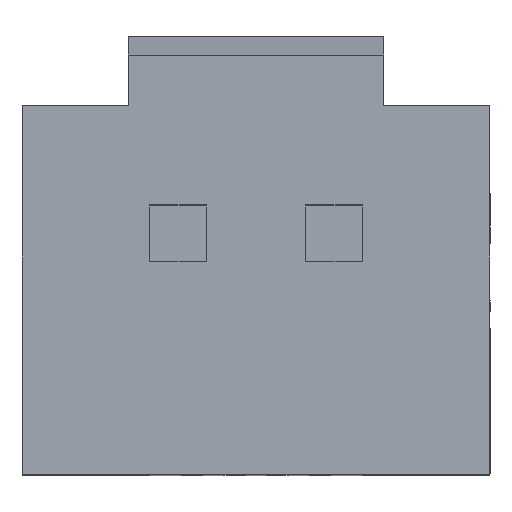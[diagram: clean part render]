
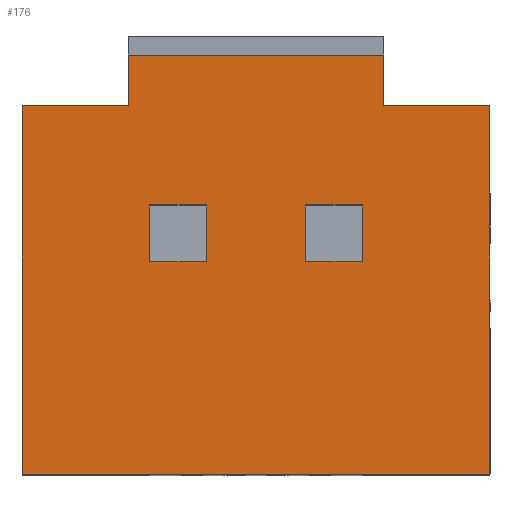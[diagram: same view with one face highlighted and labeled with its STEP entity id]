
A CAD part, top view. The second image highlights one B-rep face of the part: STEP entity #176.
In plain terms, the highlighted planar face has unit normal (0, 0, 1).
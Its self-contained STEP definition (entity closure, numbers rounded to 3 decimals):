
#27=FACE_BOUND('',#494,.T.);
#28=FACE_BOUND('',#495,.T.);
#176=ADVANCED_FACE('',(#328,#27,#28),#2548,.T.);
#328=FACE_OUTER_BOUND('',#493,.T.);
#493=EDGE_LOOP('',(#1270,#1271,#1272,#1273,#1274,#1275,#1276,#1277));
#494=EDGE_LOOP('',(#1278,#1279,#1280,#1281));
#495=EDGE_LOOP('',(#1282,#1283,#1284,#1285));
#1270=ORIENTED_EDGE('',*,*,#1485,.F.);
#1271=ORIENTED_EDGE('',*,*,#1535,.F.);
#1272=ORIENTED_EDGE('',*,*,#1712,.T.);
#1273=ORIENTED_EDGE('',*,*,#1648,.F.);
#1274=ORIENTED_EDGE('',*,*,#1713,.T.);
#1275=ORIENTED_EDGE('',*,*,#1531,.F.);
#1276=ORIENTED_EDGE('',*,*,#1489,.F.);
#1277=ORIENTED_EDGE('',*,*,#1496,.T.);
#1278=ORIENTED_EDGE('',*,*,#1314,.T.);
#1279=ORIENTED_EDGE('',*,*,#1324,.T.);
#1280=ORIENTED_EDGE('',*,*,#1321,.T.);
#1281=ORIENTED_EDGE('',*,*,#1318,.T.);
#1282=ORIENTED_EDGE('',*,*,#1330,.T.);
#1283=ORIENTED_EDGE('',*,*,#1326,.T.);
#1284=ORIENTED_EDGE('',*,*,#1336,.T.);
#1285=ORIENTED_EDGE('',*,*,#1333,.T.);
#1314=EDGE_CURVE('',#2128,#2129,#1743,.T.);
#1318=EDGE_CURVE('',#2132,#2128,#1747,.T.);
#1321=EDGE_CURVE('',#2134,#2132,#1750,.T.);
#1324=EDGE_CURVE('',#2129,#2134,#1753,.T.);
#1326=EDGE_CURVE('',#2136,#2137,#1755,.T.);
#1330=EDGE_CURVE('',#2140,#2136,#1759,.T.);
#1333=EDGE_CURVE('',#2142,#2140,#1762,.T.);
#1336=EDGE_CURVE('',#2137,#2142,#1765,.T.);
#1485=EDGE_CURVE('',#2280,#2281,#1902,.T.);
#1489=EDGE_CURVE('',#2286,#2283,#1906,.T.);
#1496=EDGE_CURVE('',#2286,#2281,#1913,.T.);
#1531=EDGE_CURVE('',#2283,#2311,#1943,.T.);
#1535=EDGE_CURVE('',#2314,#2280,#1947,.T.);
#1648=EDGE_CURVE('',#2370,#2371,#2060,.T.);
#1712=EDGE_CURVE('',#2314,#2371,#2122,.T.);
#1713=EDGE_CURVE('',#2370,#2311,#2123,.T.);
#1743=B_SPLINE_CURVE_WITH_KNOTS('',1,(#3374,#3375),.UNSPECIFIED.,.F.,.F.,
(2,2),(4.5,8.5),.UNSPECIFIED.);
#1747=B_SPLINE_CURVE_WITH_KNOTS('',1,(#3382,#3383),.UNSPECIFIED.,.F.,.F.,
(2,2),(-9.5,-5.5),.UNSPECIFIED.);
#1750=B_SPLINE_CURVE_WITH_KNOTS('',1,(#3388,#3389),.UNSPECIFIED.,.F.,.F.,
(2,2),(-6.5,-2.5),.UNSPECIFIED.);
#1753=B_SPLINE_CURVE_WITH_KNOTS('',1,(#3394,#3395),.UNSPECIFIED.,.F.,.F.,
(2,2),(7.5,11.5),.UNSPECIFIED.);
#1755=B_SPLINE_CURVE_WITH_KNOTS('',1,(#3398,#3399),.UNSPECIFIED.,.F.,.F.,
(2,2),(7.5,11.5),.UNSPECIFIED.);
#1759=B_SPLINE_CURVE_WITH_KNOTS('',1,(#3406,#3407),.UNSPECIFIED.,.F.,.F.,
(2,2),(10.,14.),.UNSPECIFIED.);
#1762=B_SPLINE_CURVE_WITH_KNOTS('',1,(#3412,#3413),.UNSPECIFIED.,.F.,.F.,
(2,2),(-9.5,-5.5),.UNSPECIFIED.);
#1765=B_SPLINE_CURVE_WITH_KNOTS('',1,(#3418,#3419),.UNSPECIFIED.,.F.,.F.,
(2,2),(-12.,-8.),.UNSPECIFIED.);
#1902=B_SPLINE_CURVE_WITH_KNOTS('',1,(#3758,#3759),.UNSPECIFIED.,.F.,.F.,
(2,2),(3.086,6.66),.UNSPECIFIED.);
#1906=B_SPLINE_CURVE_WITH_KNOTS('',1,(#3766,#3767),.UNSPECIFIED.,.F.,.F.,
(2,2),(1.34,4.914),.UNSPECIFIED.);
#1913=B_SPLINE_CURVE_WITH_KNOTS('',1,(#3780,#3781),.UNSPECIFIED.,.F.,.F.,
(2,2),(-4.5,13.5),.UNSPECIFIED.);
#1943=B_SPLINE_CURVE_WITH_KNOTS('',1,(#3857,#3858),.UNSPECIFIED.,.F.,.F.,
(2,2),(-7.5,0.),.UNSPECIFIED.);
#1947=B_SPLINE_CURVE_WITH_KNOTS('',1,(#3865,#3866),.UNSPECIFIED.,.F.,.F.,
(2,2),(-33.,-25.5),.UNSPECIFIED.);
#2060=B_SPLINE_CURVE_WITH_KNOTS('',1,(#4091,#4092),.UNSPECIFIED.,.F.,.F.,
(2,2),(0.,33.),.UNSPECIFIED.);
#2122=B_SPLINE_CURVE_WITH_KNOTS('',1,(#4221,#4222),.UNSPECIFIED.,.F.,.F.,
(2,2),(-3.,23.),.UNSPECIFIED.);
#2123=B_SPLINE_CURVE_WITH_KNOTS('',1,(#4223,#4224),.UNSPECIFIED.,.F.,.F.,
(2,2),(-26.,0.),.UNSPECIFIED.);
#2128=VERTEX_POINT('',#3102);
#2129=VERTEX_POINT('',#3103);
#2132=VERTEX_POINT('',#3106);
#2134=VERTEX_POINT('',#3108);
#2136=VERTEX_POINT('',#3110);
#2137=VERTEX_POINT('',#3111);
#2140=VERTEX_POINT('',#3114);
#2142=VERTEX_POINT('',#3116);
#2280=VERTEX_POINT('',#3254);
#2281=VERTEX_POINT('',#3255);
#2283=VERTEX_POINT('',#3257);
#2286=VERTEX_POINT('',#3260);
#2311=VERTEX_POINT('',#3285);
#2314=VERTEX_POINT('',#3288);
#2370=VERTEX_POINT('',#3344);
#2371=VERTEX_POINT('',#3345);
#2548=PLANE('',#2787);
#2787=AXIS2_PLACEMENT_3D('',#3097,#2942,$);
#2942=DIRECTION('',(0.,0.,1.));
#3097=CARTESIAN_POINT('',(48.934,13.08,59.5));
#3102=CARTESIAN_POINT('',(39.924,28.09,59.5));
#3103=CARTESIAN_POINT('',(35.924,28.09,59.5));
#3106=CARTESIAN_POINT('',(39.924,32.09,59.5));
#3108=CARTESIAN_POINT('',(35.924,32.09,59.5));
#3110=CARTESIAN_POINT('',(24.924,28.09,59.5));
#3111=CARTESIAN_POINT('',(24.924,32.09,59.5));
#3114=CARTESIAN_POINT('',(28.924,28.09,59.5));
#3116=CARTESIAN_POINT('',(28.924,32.09,59.5));
#3254=CARTESIAN_POINT('',(23.424,39.09,59.5));
#3255=CARTESIAN_POINT('',(23.424,42.664,59.5));
#3257=CARTESIAN_POINT('',(41.424,39.09,59.5));
#3260=CARTESIAN_POINT('',(41.424,42.664,59.5));
#3285=CARTESIAN_POINT('',(48.924,39.09,59.5));
#3288=CARTESIAN_POINT('',(15.924,39.09,59.5));
#3344=CARTESIAN_POINT('',(48.924,13.09,59.5));
#3345=CARTESIAN_POINT('',(15.924,13.09,59.5));
#3374=CARTESIAN_POINT('',(39.924,28.09,59.5));
#3375=CARTESIAN_POINT('',(35.924,28.09,59.5));
#3382=CARTESIAN_POINT('',(39.924,32.09,59.5));
#3383=CARTESIAN_POINT('',(39.924,28.09,59.5));
#3388=CARTESIAN_POINT('',(35.924,32.09,59.5));
#3389=CARTESIAN_POINT('',(39.924,32.09,59.5));
#3394=CARTESIAN_POINT('',(35.924,28.09,59.5));
#3395=CARTESIAN_POINT('',(35.924,32.09,59.5));
#3398=CARTESIAN_POINT('',(24.924,28.09,59.5));
#3399=CARTESIAN_POINT('',(24.924,32.09,59.5));
#3406=CARTESIAN_POINT('',(28.924,28.09,59.5));
#3407=CARTESIAN_POINT('',(24.924,28.09,59.5));
#3412=CARTESIAN_POINT('',(28.924,32.09,59.5));
#3413=CARTESIAN_POINT('',(28.924,28.09,59.5));
#3418=CARTESIAN_POINT('',(24.924,32.09,59.5));
#3419=CARTESIAN_POINT('',(28.924,32.09,59.5));
#3758=CARTESIAN_POINT('',(23.424,39.09,59.5));
#3759=CARTESIAN_POINT('',(23.424,42.664,59.5));
#3766=CARTESIAN_POINT('',(41.424,42.664,59.5));
#3767=CARTESIAN_POINT('',(41.424,39.09,59.5));
#3780=CARTESIAN_POINT('',(41.424,42.664,59.5));
#3781=CARTESIAN_POINT('',(23.424,42.664,59.5));
#3857=CARTESIAN_POINT('',(41.424,39.09,59.5));
#3858=CARTESIAN_POINT('',(48.924,39.09,59.5));
#3865=CARTESIAN_POINT('',(15.924,39.09,59.5));
#3866=CARTESIAN_POINT('',(23.424,39.09,59.5));
#4091=CARTESIAN_POINT('',(48.924,13.09,59.5));
#4092=CARTESIAN_POINT('',(15.924,13.09,59.5));
#4221=CARTESIAN_POINT('',(15.924,39.09,59.5));
#4222=CARTESIAN_POINT('',(15.924,13.09,59.5));
#4223=CARTESIAN_POINT('',(48.924,13.09,59.5));
#4224=CARTESIAN_POINT('',(48.924,39.09,59.5));
